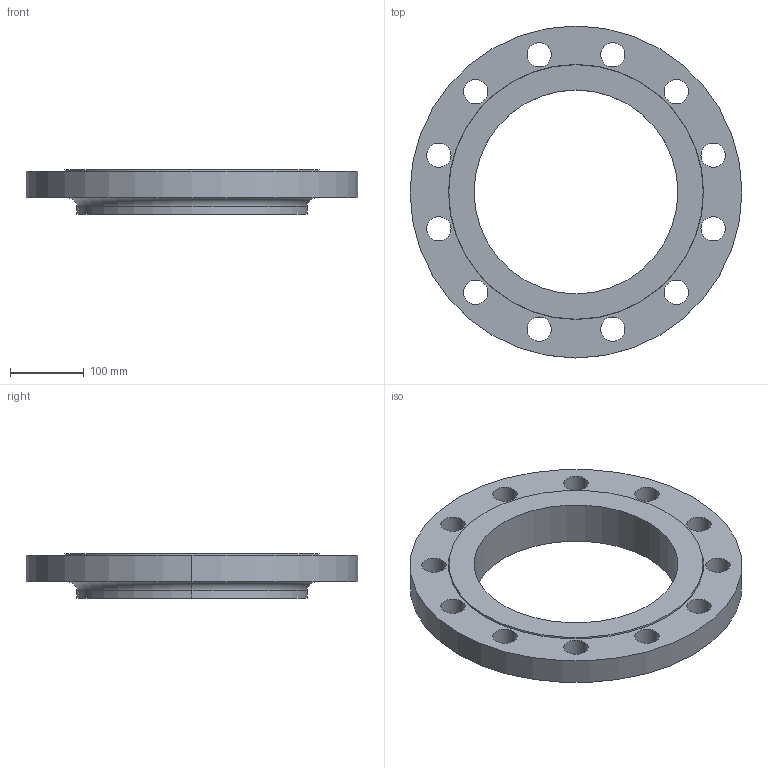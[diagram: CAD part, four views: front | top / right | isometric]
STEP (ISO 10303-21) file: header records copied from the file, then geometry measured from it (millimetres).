
FILE_DESCRIPTION (( 'STEP AP214' ), '1' );
FILE_NAME ('PN40 DN250 Type 12 - Type B Face.STEP', '2019-01-05T16:07:54', ( '' ), ( '' ), 'SwSTEP 2.0', 'SolidWorks 2019', '' );
FILE_SCHEMA (( 'AUTOMOTIVE_DESIGN' ));
Length unit declared in the file: millimetre
Products named in the file (1): PN40 DN250 Type 12 - Type B Face
Bounding box: 450 x 450 x 60 mm (x, y, z)
Volume: 3653476.8 mm3; surface area: 343667.9 mm2
Topology: 1 solids, 1 shells, 38 faces, 100 edges, 66 vertices
Faces by surface type: cylinder 30, plane 4, torus 2, cone 2
Entity records: 1302 total; most frequent: DIRECTION 246, CARTESIAN_POINT 205, ORIENTED_EDGE 200, AXIS2_PLACEMENT_3D 107, EDGE_CURVE 100, CIRCLE 68, EDGE_LOOP 66, VERTEX_POINT 66
